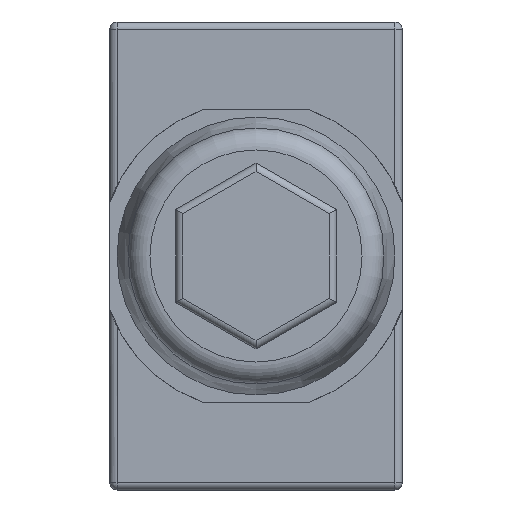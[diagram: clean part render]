
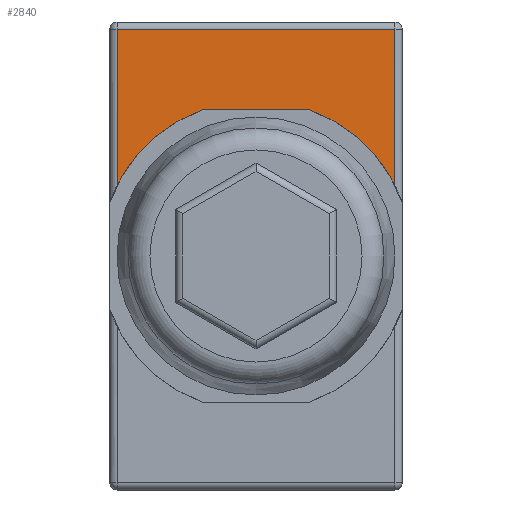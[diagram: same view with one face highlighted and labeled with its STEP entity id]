
A CAD part, front view. The second image highlights one B-rep face of the part: STEP entity #2840.
In plain terms, the highlighted planar face has unit normal (0, -1, 0).
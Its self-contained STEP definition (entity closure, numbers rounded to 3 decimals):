
#241=FACE_OUTER_BOUND('',#426,.T.);
#426=EDGE_LOOP('',(#2029,#2030,#2031,#2032,#2033,#2034));
#641=LINE('',#4625,#865);
#642=LINE('',#4629,#866);
#643=LINE('',#4631,#867);
#644=LINE('',#4632,#868);
#865=VECTOR('',#3560,1000.);
#866=VECTOR('',#3563,1000.);
#867=VECTOR('',#3564,1000.);
#868=VECTOR('',#3565,1000.);
#1088=CIRCLE('',#3096,21.3);
#1089=CIRCLE('',#3097,21.3);
#1284=VERTEX_POINT('',#4621);
#1285=VERTEX_POINT('',#4622);
#1286=VERTEX_POINT('',#4624);
#1287=VERTEX_POINT('',#4626);
#1288=VERTEX_POINT('',#4628);
#1289=VERTEX_POINT('',#4630);
#1571=EDGE_CURVE('',#1284,#1285,#1088,.F.);
#1572=EDGE_CURVE('',#1286,#1284,#641,.T.);
#1573=EDGE_CURVE('',#1287,#1286,#1089,.F.);
#1574=EDGE_CURVE('',#1287,#1288,#642,.F.);
#1575=EDGE_CURVE('',#1288,#1289,#643,.F.);
#1576=EDGE_CURVE('',#1289,#1285,#644,.F.);
#2029=ORIENTED_EDGE('',*,*,#1571,.F.);
#2030=ORIENTED_EDGE('',*,*,#1572,.F.);
#2031=ORIENTED_EDGE('',*,*,#1573,.F.);
#2032=ORIENTED_EDGE('',*,*,#1574,.T.);
#2033=ORIENTED_EDGE('',*,*,#1575,.T.);
#2034=ORIENTED_EDGE('',*,*,#1576,.T.);
#2753=PLANE('',#3095);
#2840=ADVANCED_FACE('',(#241),#2753,.F.);
#3095=AXIS2_PLACEMENT_3D('',#4620,#3556,#3557);
#3096=AXIS2_PLACEMENT_3D('',#4623,#3558,#3559);
#3097=AXIS2_PLACEMENT_3D('',#4627,#3561,#3562);
#3556=DIRECTION('center_axis',(0.,1.,0.));
#3557=DIRECTION('ref_axis',(0.,0.,1.));
#3558=DIRECTION('center_axis',(0.,1.,0.));
#3559=DIRECTION('ref_axis',(0.,0.,1.));
#3560=DIRECTION('',(-1.,0.,0.));
#3561=DIRECTION('center_axis',(0.,1.,0.));
#3562=DIRECTION('ref_axis',(0.,0.,1.));
#3563=DIRECTION('',(0.,0.,-1.));
#3564=DIRECTION('',(1.,0.,0.));
#3565=DIRECTION('',(0.,0.,1.));
#4620=CARTESIAN_POINT('Origin',(1.,0.,-63.));
#4621=CARTESIAN_POINT('',(12.673,0.,-12.));
#4622=CARTESIAN_POINT('',(1.,0.,-22.372));
#4623=CARTESIAN_POINT('Origin',(20.,0.,-32.));
#4624=CARTESIAN_POINT('',(27.327,0.,-12.));
#4625=CARTESIAN_POINT('',(1.,0.,-12.));
#4626=CARTESIAN_POINT('',(39.,0.,-22.372));
#4627=CARTESIAN_POINT('Origin',(20.,0.,-32.));
#4628=CARTESIAN_POINT('',(39.,0.,-1.));
#4629=CARTESIAN_POINT('',(39.,0.,-63.));
#4630=CARTESIAN_POINT('',(1.,0.,-1.));
#4631=CARTESIAN_POINT('',(1.,0.,-1.));
#4632=CARTESIAN_POINT('',(1.,0.,-63.));
